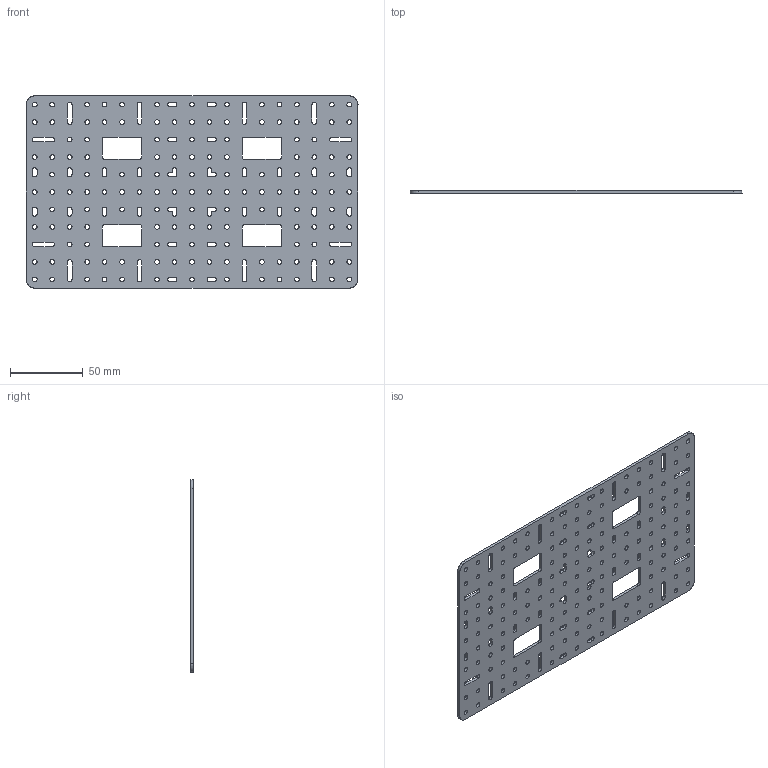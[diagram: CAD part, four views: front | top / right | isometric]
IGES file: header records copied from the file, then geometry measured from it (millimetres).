
Start section: SolidWorks IGES file using analytic representation for surfaces
Global section: file name: C:\Users\tahsi\Desktop\SMD\3D tasarýmlar\Building Set\11x19 Plate\11x19 Plate.IGS; native system: SolidWorks 2023; preprocessor: SolidWorks 2023; author: tahsi; date: 240613.132324; units: millimetre
Bounding box: 228 x 2 x 132 mm (x, y, z)
Surface area: 59034.1 mm2 (no closed solid volume)
Topology: 0 solids, 0 shells, 494 faces, 7944 edges, 7944 vertices
Faces by surface type: revolution 384, bspline 110
